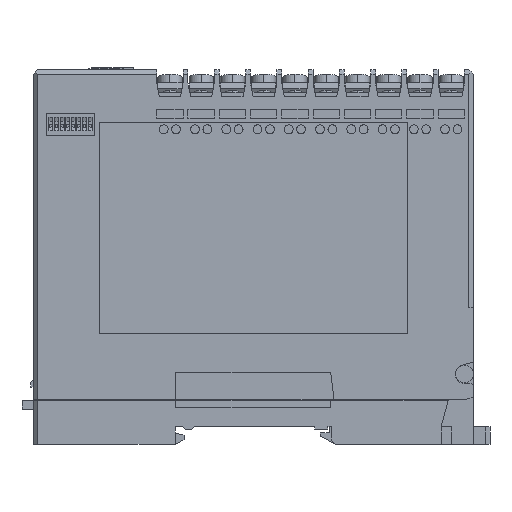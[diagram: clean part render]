
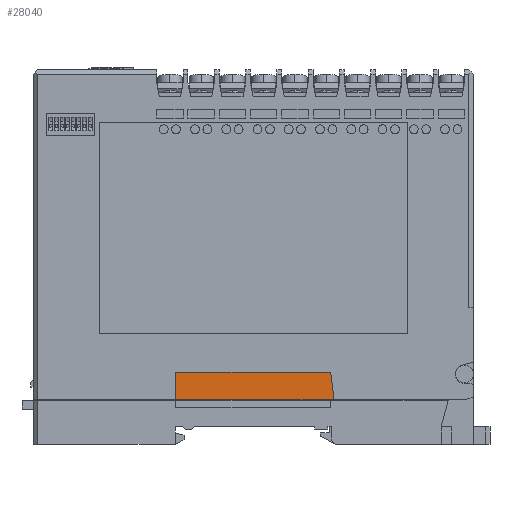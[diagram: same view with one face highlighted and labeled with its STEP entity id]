
A CAD part, left-side view. The second image highlights one B-rep face of the part: STEP entity #28040.
In plain terms, the highlighted planar face has unit normal (-1, 0, 0).
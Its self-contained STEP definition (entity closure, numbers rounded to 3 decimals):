
#4025 = VECTOR ( 'NONE', #40766, 1000. ) ;
#6134 = DIRECTION ( 'NONE',  ( 0., 0., -1. ) ) ;
#6620 = EDGE_CURVE ( 'NONE', #16448, #16621, #12351, .T. ) ;
#7008 = CARTESIAN_POINT ( 'NONE',  ( 0.2, 67.6, -75. ) ) ;
#9714 = VECTOR ( 'NONE', #15296, 1000. ) ;
#10985 = CARTESIAN_POINT ( 'NONE',  ( 0.2, 32.4, -68.7 ) ) ;
#12074 = ORIENTED_EDGE ( 'NONE', *, *, #26382, .F. ) ;
#12351 = LINE ( 'NONE', #16517, #12676 ) ;
#12612 = CARTESIAN_POINT ( 'NONE',  ( 0.2, 67.6, -75. ) ) ;
#12676 = VECTOR ( 'NONE', #34706, 1000. ) ;
#15296 = DIRECTION ( 'NONE',  ( 0., 1., 0. ) ) ;
#16448 = VERTEX_POINT ( 'NONE', #29573 ) ;
#16517 = CARTESIAN_POINT ( 'NONE',  ( 0.2, 32.4, -68.7 ) ) ;
#16621 = VERTEX_POINT ( 'NONE', #10985 ) ;
#19041 = VECTOR ( 'NONE', #25176, 1000. ) ;
#20715 = LINE ( 'NONE', #7008, #19041 ) ;
#21796 = CARTESIAN_POINT ( 'NONE',  ( 0.2, 67.6, -68.7 ) ) ;
#23190 = ORIENTED_EDGE ( 'NONE', *, *, #6620, .T. ) ;
#24571 = FACE_OUTER_BOUND ( 'NONE', #38271, .T. ) ;
#25176 = DIRECTION ( 'NONE',  ( 0., 0., -1. ) ) ;
#26382 = EDGE_CURVE ( 'NONE', #16448, #44094, #31811, .T. ) ;
#28040 = ADVANCED_FACE ( 'NONE', ( #24571 ), #52273, .F. ) ;
#29573 = CARTESIAN_POINT ( 'NONE',  ( 0.2, 31.613, -75. ) ) ;
#30153 = EDGE_CURVE ( 'NONE', #16621, #57684, #42138, .T. ) ;
#31811 = LINE ( 'NONE', #45524, #4025 ) ;
#33777 = CARTESIAN_POINT ( 'NONE',  ( 0.2, 67.6, -68.7 ) ) ;
#34706 = DIRECTION ( 'NONE',  ( 0., 0.124, 0.992 ) ) ;
#35799 = ORIENTED_EDGE ( 'NONE', *, *, #30153, .T. ) ;
#38271 = EDGE_LOOP ( 'NONE', ( #12074, #23190, #35799, #49885 ) ) ;
#38467 = AXIS2_PLACEMENT_3D ( 'NONE', #56160, #42484, #6134 ) ;
#40766 = DIRECTION ( 'NONE',  ( 0., 1., 0. ) ) ;
#42138 = LINE ( 'NONE', #33777, #9714 ) ;
#42484 = DIRECTION ( 'NONE',  ( 1., 0., 0. ) ) ;
#44094 = VERTEX_POINT ( 'NONE', #12612 ) ;
#45524 = CARTESIAN_POINT ( 'NONE',  ( 0.2, 5.66, -75. ) ) ;
#49456 = EDGE_CURVE ( 'NONE', #57684, #44094, #20715, .T. ) ;
#49885 = ORIENTED_EDGE ( 'NONE', *, *, #49456, .T. ) ;
#52273 = PLANE ( 'NONE',  #38467 ) ;
#56160 = CARTESIAN_POINT ( 'NONE',  ( 0.2, 0., 0. ) ) ;
#57684 = VERTEX_POINT ( 'NONE', #21796 ) ;
